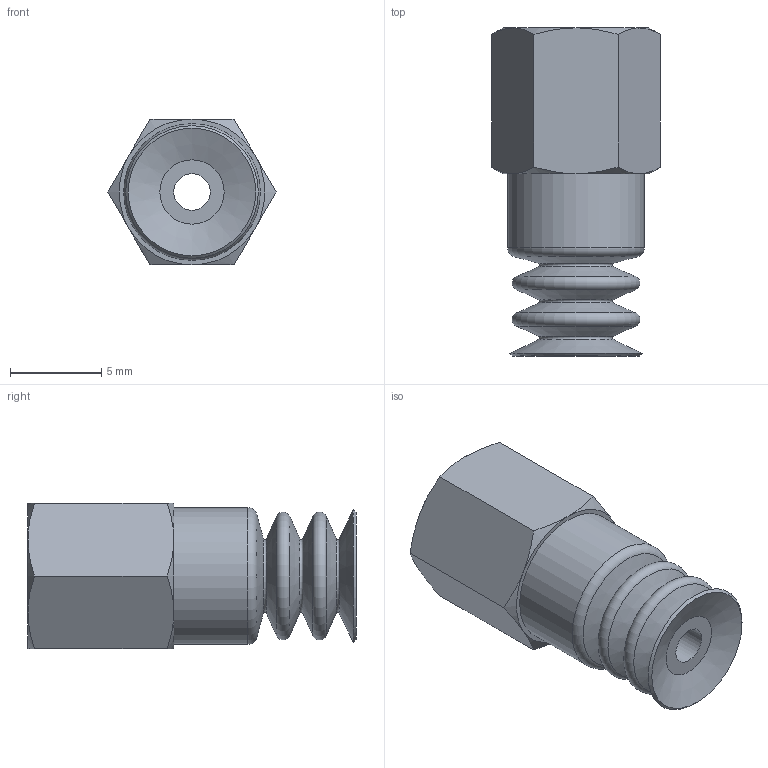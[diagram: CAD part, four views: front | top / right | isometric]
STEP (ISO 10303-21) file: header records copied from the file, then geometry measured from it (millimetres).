
FILE_DESCRIPTION(('STEP AP203'),'1');
FILE_NAME('.stp','2025-04-02T05:36:17',(' '),(' '),'Spatial InterOp 3D',' ',' ');
FILE_SCHEMA(('CONFIG_CONTROL_DESIGN'));
Length unit declared in the file: millimetre
Products named in the file (3): BPS-7-BC-F-※; PS-7-C-F 1; BPCG-7-※
Assembly tree (2 placements, depth 2):
  BPS-7-BC-F-※
    PS-7-C-F 1
    BPCG-7-※
Bounding box: 9.24 x 18 x 8 mm (x, y, z)
Volume: 641.2 mm3; surface area: 1030.4 mm2
Topology: 2 solids, 2 shells, 56 faces, 111 edges, 63 vertices
Faces by surface type: cone 22, plane 14, torus 12, cylinder 8
Full cylindrical faces by diameter (mm): 2 x2, 4 x2, 4.134 x1, 6 x2, 7.5 x1
Entity records: 1410 total; most frequent: CARTESIAN_POINT 247, DIRECTION 222, ORIENTED_EDGE 158, AXIS2_PLACEMENT_3D 108, EDGE_LOOP 94, EDGE_CURVE 79, FACE_OUTER_BOUND 76, VERTEX_POINT 61
